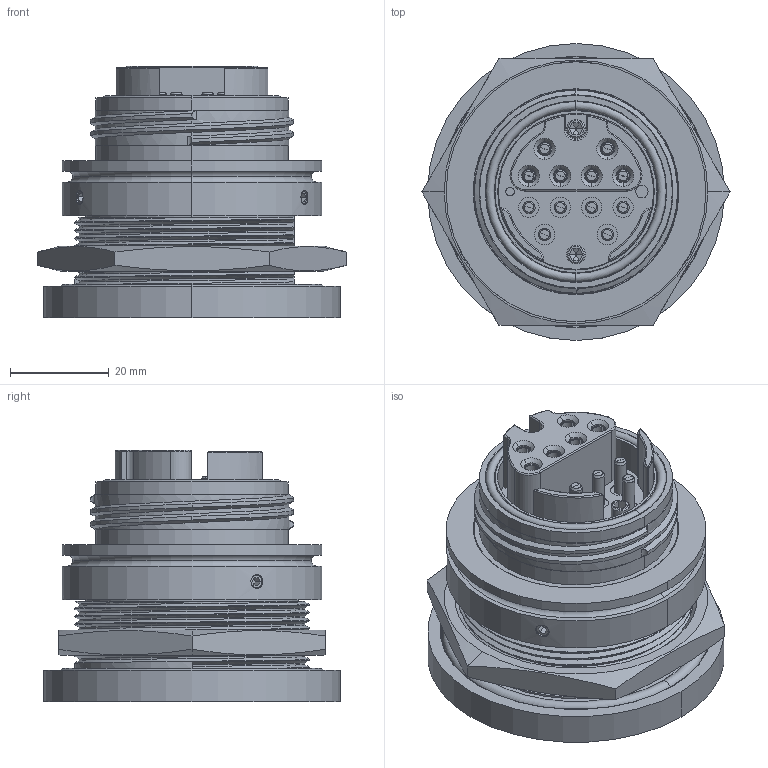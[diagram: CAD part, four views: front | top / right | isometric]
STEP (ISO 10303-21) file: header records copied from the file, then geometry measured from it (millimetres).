
FILE_DESCRIPTION (( 'STEP AP214' ), '1' );
FILE_NAME ('QFOCA-RKXX-12CH-X-S0X.STEP', '2025-06-09T20:21:30', ( '' ), ( '' ), 'SwSTEP 2.0', 'SolidWorks 2024', '' );
FILE_SCHEMA (( 'AUTOMOTIVE_DESIGN' ));
Length unit declared in the file: inch
Products named in the file (1): QFOCA-RKXX-12CH-X-S0X
Bounding box: 62.33 x 60.07 x 50.85 mm (x, y, z)
Volume: 68471.1 mm3; surface area: 34594.1 mm2
Topology: 11 solids, 25 shells, 783 faces, 1889 edges, 1178 vertices
Faces by surface type: cylinder 297, plane 173, cone 171, torus 98, bspline 44
Entity records: 42872 total; most frequent: CARTESIAN_POINT 24775, DIRECTION 3847, ORIENTED_EDGE 3766, EDGE_CURVE 1883, AXIS2_PLACEMENT_3D 1572, VERTEX_POINT 1178, EDGE_LOOP 849, CIRCLE 832
